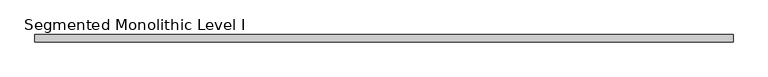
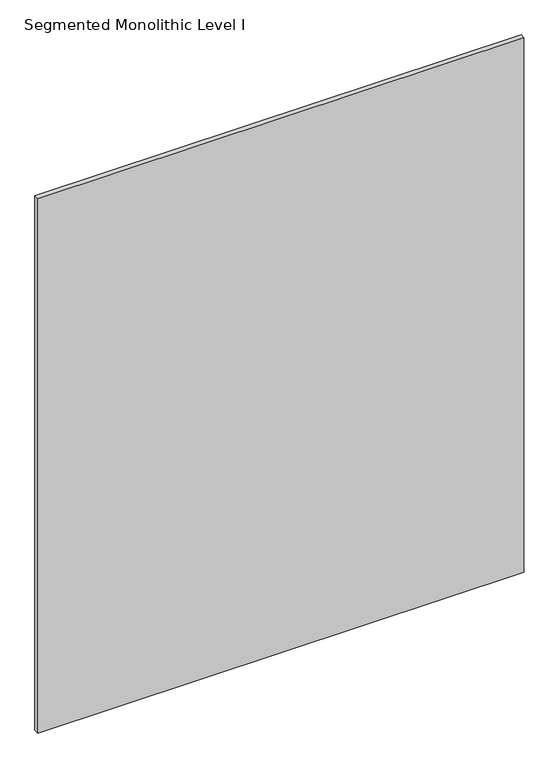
"""IFC4 building model written with IfcOpenShell, lengths in millimetres: proxy geometry, Panel-Fascia-Teknion-Altos-Standard : Segmented Monolithic Level I."""

from ifc_helpers import new_model, si_unit, frame, origin, place, context, project, spatial, polyline, outline, extrude, source, transform, mapped, element, save


def segmented_monolithic_level_i_864a3625(model_context):
    return source(origin(), model_context, "Body", "SweptSolid", [
        extrude(outline(polyline([(911.225, 9.525), (911.225, -9.525), (-911.225, -9.525), (-911.225, 9.525), (911.225, 9.525)])), frame((0.0, 0.0, 3.175), z_axis=(0.0, 0.0, 1.0), x_axis=(1.0, 0.0, 0.0)), (0.0, 0.0, 1.0), 2117.725),
    ])


if __name__ == "__main__":
    model = new_model("IFC4")
    model_context = context("Model", 3, world=origin())
    ifc_project = project(units=[si_unit("LENGTHUNIT", "METRE", prefix="MILLI")], contexts=[model_context])
    site = spatial("IfcSite", under=ifc_project)
    building = spatial("IfcBuilding", under=site)
    placement = place(None, origin())
    segmented_monolithic_level_i_shape = segmented_monolithic_level_i_864a3625(model_context)
    element("IfcBuildingElementProxy", 1, Name="Panel-Fascia-Teknion-Altos-Standard : Segmented Monolithic Level I", ObjectType="Panel-Fascia-Teknion-Altos-Standard : Segmented Monolithic Level I", at=placement, inside=building, context=model_context, shape_type="MappedRepresentation", body=[
        mapped(segmented_monolithic_level_i_shape, transform((0.0, 0.0, 0.0), x_axis=(1.0, 0.0, 0.0), y_axis=(0.0, 1.0, 0.0), z_axis=(0.0, 0.0, 1.0))),
    ])
    save(model, "model.ifc")
